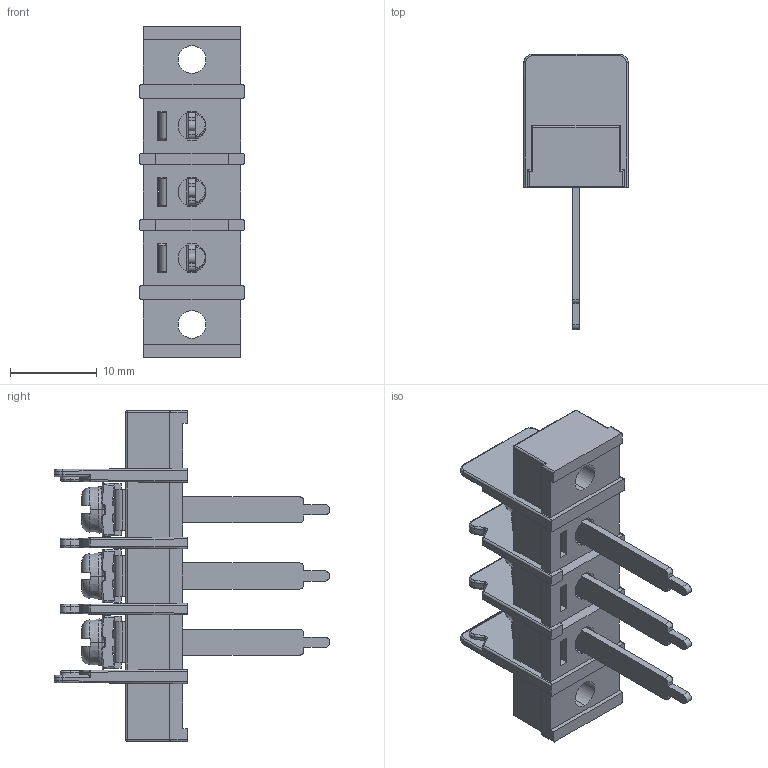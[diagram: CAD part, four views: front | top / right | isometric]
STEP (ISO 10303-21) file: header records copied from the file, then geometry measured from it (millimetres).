
FILE_DESCRIPTION((''),'2;1');
FILE_NAME('YK306033XX00G_WF_WOC','2021-04-21T',('hanke'),(''),'CREO PARAMETRIC BY PTC INC, 2016260','CREO PARAMETRIC BY PTC INC, 2016260','');
FILE_SCHEMA(('CONFIG_CONTROL_DESIGN'));
Products named in the file (1): YK306033XX00G_WF_WOC
Bounding box: 12 x 31.7 x 38.1 mm (x, y, z)
Volume: 2782.8 mm3; surface area: 5386 mm2
Topology: 1 solids, 1 shells, 1218 faces, 3492 edges, 2231 vertices
Faces by surface type: plane 623, cylinder 334, bspline 87, torus 80, sphere 61, cone 33
Entity records: 53095 total; most frequent: CARTESIAN_POINT 22348, ORIENTED_EDGE 6940, DIRECTION 5854, EDGE_CURVE 3470, VERTEX_POINT 2231, AXIS2_PLACEMENT_3D 2012, VECTOR 1830, LINE 1830
